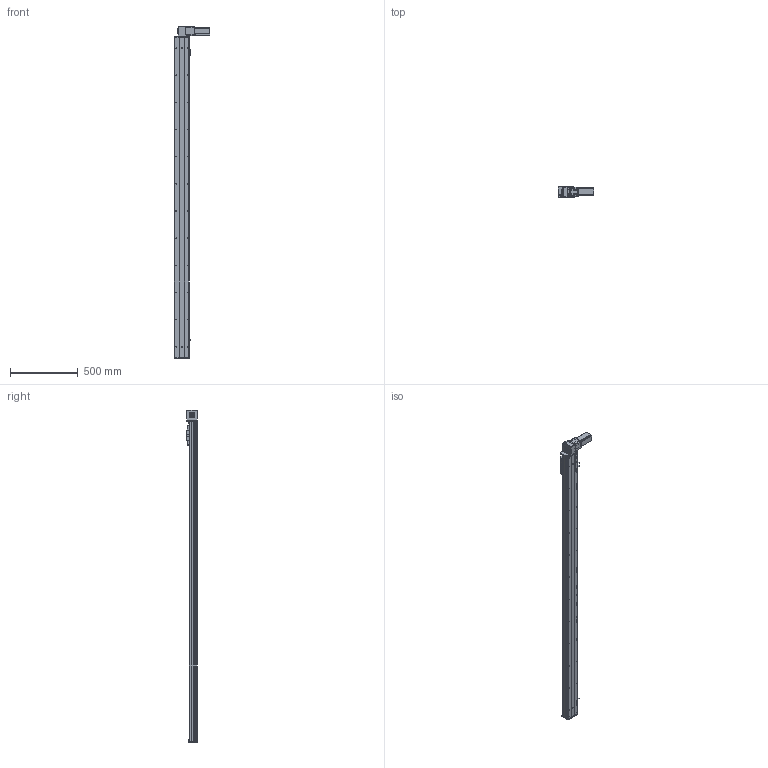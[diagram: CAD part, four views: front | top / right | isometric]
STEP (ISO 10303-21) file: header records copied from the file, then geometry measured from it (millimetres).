
FILE_DESCRIPTION (( 'STEP AP203' ), '1' );
FILE_NAME ('Y10CB-D90-S2100-BD-P400W.STEP', '2020-02-17T02:56:12', ( '微软用户' ), ( '微软中国' ), 'SwSTEP 2.0', 'SolidWorks 2017', '' );
FILE_SCHEMA (( 'CONFIG_CONTROL_DESIGN' ));
Length unit declared in the file: millimetre
Products named in the file (16): Y10C---詩湍揤啣; 0CB-雄赽釱---; 10CB9-掛极; 0Cb-俋欶---; 10CB-耜裔; Y10B-々湍喘謫眊楊擘啣--; Y135C-陔俋离換覜結え-; san松下电机400不带刹车----; Y100-135俋离換覜ん--; 0B-源倛裔啣; Y10B--々湍喘謫眊--666; 0B-埴倛裔啣; 0B-薊粣ん眊; 10CB-詩湍-; Y10CB-D90-S2100-BD-P400W; Y10CB- 掛极耜裔啣-毀---
Assembly tree (19 placements, depth 2):
  Y10CB-D90-S2100-BD-P400W
    0CB-雄赽釱---
    0Cb-俋欶---
    Y10B-々湍喘謫眊楊擘啣--
    san松下电机400不带刹车----
    0B-源倛裔啣
    0B-埴倛裔啣
    10CB-詩湍-
    Y10CB- 掛极耜裔啣-毀---  x2
    Y10C---詩湍揤啣  x2
    10CB9-掛极
    10CB-耜裔
    Y135C-陔俋离換覜結え-
    Y100-135俋离換覜ん--  x3
    Y10B--々湍喘謫眊--666
    0B-薊粣ん眊
Bounding box: 258 x 80.5 x 2446 mm (x, y, z)
Volume: 5055880.2 mm3; surface area: 2336137.1 mm2
Topology: 19 solids, 19 shells, 960 faces, 2582 edges, 1676 vertices
Faces by surface type: cylinder 490, plane 446, cone 24
Entity records: 30069 total; most frequent: CARTESIAN_POINT 5644, DIRECTION 4797, ORIENTED_EDGE 4634, EDGE_CURVE 2317, AXIS2_PLACEMENT_3D 1719, VERTEX_POINT 1502, LINE 1359, VECTOR 1359
